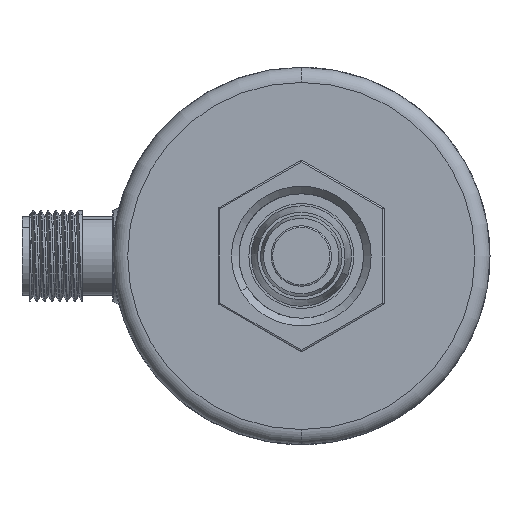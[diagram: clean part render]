
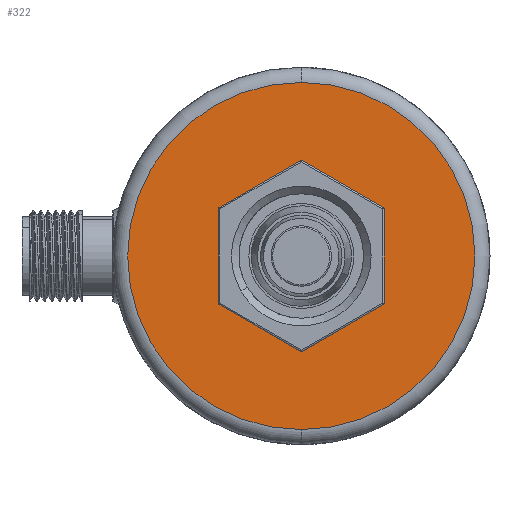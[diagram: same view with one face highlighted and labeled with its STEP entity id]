
A CAD part, left-side view. The second image highlights one B-rep face of the part: STEP entity #322.
In plain terms, the highlighted planar face has unit normal (-1, 0, 0).
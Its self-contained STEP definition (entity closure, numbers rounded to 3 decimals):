
#322 = ADVANCED_FACE ( 'NONE', ( #13921, #1133 ), #10047, .T. ) ;
#447 = CARTESIAN_POINT ( 'NONE',  ( 42., -340., -23. ) ) ;
#1115 = CARTESIAN_POINT ( 'NONE',  ( 42., -340., 4.4 ) ) ;
#1133 = FACE_BOUND ( 'NONE', #13846, .T. ) ;
#1305 = DIRECTION ( 'NONE',  ( 0., 0., 1. ) ) ;
#1527 = EDGE_CURVE ( 'NONE', #8816, #5702, #2412, .T. ) ;
#2412 = CIRCLE ( 'NONE', #8811, 4.4 ) ;
#2554 = DIRECTION ( 'NONE',  ( -1., 0., 0. ) ) ;
#4443 = CIRCLE ( 'NONE', #9238, 4.4 ) ;
#5216 = DIRECTION ( 'NONE',  ( 0., 0., 1. ) ) ;
#5226 = CIRCLE ( 'NONE', #14236, 23. ) ;
#5702 = VERTEX_POINT ( 'NONE', #1115 ) ;
#6135 = DIRECTION ( 'NONE',  ( -1., 0., 0. ) ) ;
#6312 = DIRECTION ( 'NONE',  ( -1., 0., 0. ) ) ;
#6937 = ORIENTED_EDGE ( 'NONE', *, *, #11193, .T. ) ;
#7294 = CARTESIAN_POINT ( 'NONE',  ( 42., -340., 0. ) ) ;
#7592 = CARTESIAN_POINT ( 'NONE',  ( 42., -340., -4.4 ) ) ;
#7640 = CARTESIAN_POINT ( 'NONE',  ( 42., -340., 0. ) ) ;
#8031 = DIRECTION ( 'NONE',  ( 0., 0., 1. ) ) ;
#8811 = AXIS2_PLACEMENT_3D ( 'NONE', #13821, #16402, #13899 ) ;
#8816 = VERTEX_POINT ( 'NONE', #7592 ) ;
#9227 = AXIS2_PLACEMENT_3D ( 'NONE', #7640, #6312, #1305 ) ;
#9238 = AXIS2_PLACEMENT_3D ( 'NONE', #7294, #6135, #15162 ) ;
#9441 = CARTESIAN_POINT ( 'NONE',  ( 42., -340., 0. ) ) ;
#10047 = PLANE ( 'NONE',  #14250 ) ;
#11193 = EDGE_CURVE ( 'NONE', #15713, #11358, #13175, .T. ) ;
#11358 = VERTEX_POINT ( 'NONE', #13003 ) ;
#11502 = EDGE_CURVE ( 'NONE', #11358, #15713, #5226, .T. ) ;
#12008 = EDGE_CURVE ( 'NONE', #5702, #8816, #4443, .T. ) ;
#12145 = ORIENTED_EDGE ( 'NONE', *, *, #1527, .F. ) ;
#12292 = ORIENTED_EDGE ( 'NONE', *, *, #11502, .T. ) ;
#13003 = CARTESIAN_POINT ( 'NONE',  ( 42., -340., 23. ) ) ;
#13175 = CIRCLE ( 'NONE', #9227, 23. ) ;
#13821 = CARTESIAN_POINT ( 'NONE',  ( 42., -340., 0. ) ) ;
#13846 = EDGE_LOOP ( 'NONE', ( #14021, #12145 ) ) ;
#13899 = DIRECTION ( 'NONE',  ( 0., 0., 1. ) ) ;
#13921 = FACE_OUTER_BOUND ( 'NONE', #15114, .T. ) ;
#14021 = ORIENTED_EDGE ( 'NONE', *, *, #12008, .F. ) ;
#14152 = DIRECTION ( 'NONE',  ( -1., 0., 0. ) ) ;
#14236 = AXIS2_PLACEMENT_3D ( 'NONE', #9441, #14152, #8031 ) ;
#14250 = AXIS2_PLACEMENT_3D ( 'NONE', #15094, #2554, #5216 ) ;
#15094 = CARTESIAN_POINT ( 'NONE',  ( 42., -340., 0. ) ) ;
#15114 = EDGE_LOOP ( 'NONE', ( #12292, #6937 ) ) ;
#15162 = DIRECTION ( 'NONE',  ( 0., 0., 1. ) ) ;
#15713 = VERTEX_POINT ( 'NONE', #447 ) ;
#16402 = DIRECTION ( 'NONE',  ( -1., 0., 0. ) ) ;
